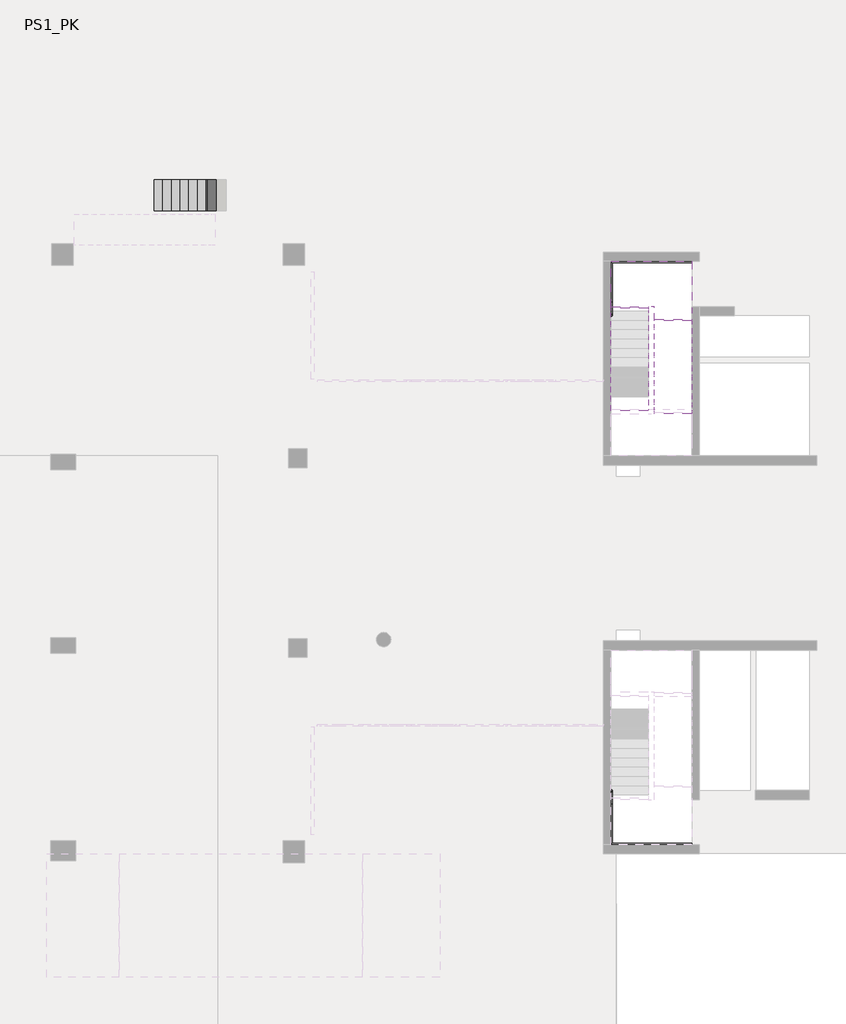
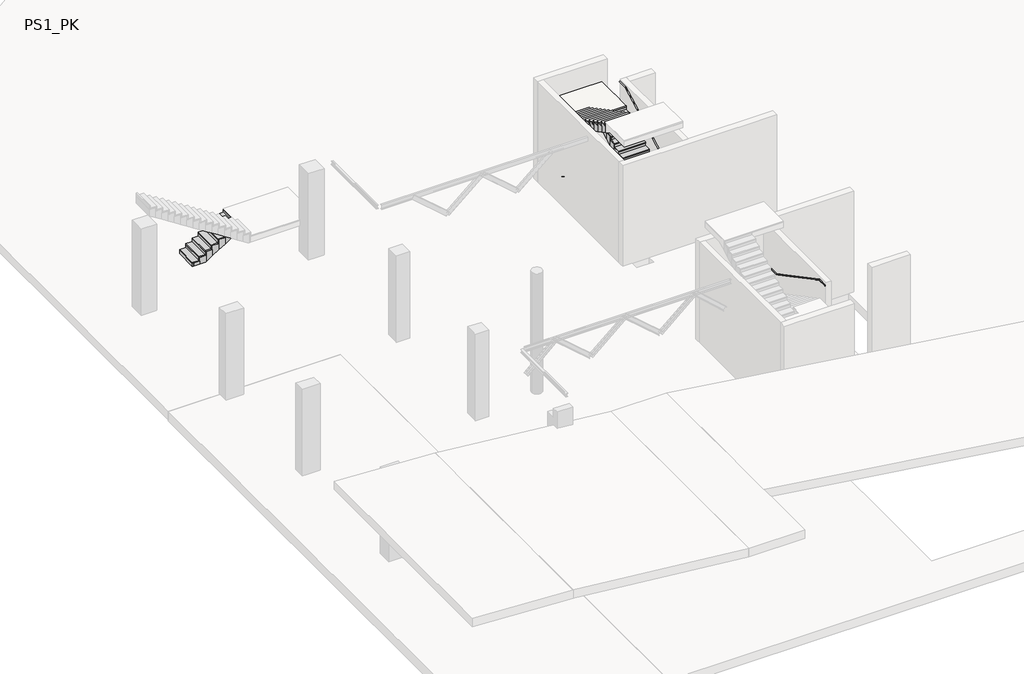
# One storey, part 5 of 5: 3 stair flights, 2 railings, 1 slab.
"""IFC4 building model written with IfcOpenShell, lengths in millimetres."""

from ifc_helpers import new_model, si_unit, frame, origin, place, context, project, spatial, polyline, outline, extrude, faceted_brep, transform, mapped, element, save
from components import railing_900mm_pipe_top_rail_ca5293e4, railing_900mm_pipe_top_rail_e4b130cf

model = new_model("IFC4")

# Units and contexts
model_context = context("Model", 3, world=origin())
ifc_project = project(units=[si_unit("LENGTHUNIT", "METRE", prefix="MILLI")], contexts=[model_context])

# Site, building, storey
site = spatial("IfcSite", under=ifc_project)
building = spatial("IfcBuilding", under=site)
storey = spatial("IfcBuildingStorey", under=building, Name="PS1_PK", Elevation=1850.0)

# Railings
placement = place(None, origin())
railing_900mm_pipe_top_rail_shape = railing_900mm_pipe_top_rail_ca5293e4(model_context)
element("IfcRailing", 1, ObjectType="900mm_Pipe_Top Rail", at=placement, inside=storey, context=model_context, shape_type="MappedRepresentation", body=[
    mapped(railing_900mm_pipe_top_rail_shape, transform((0.0, 0.0, 0.0), x_axis=(1.0, 0.0, 0.0), y_axis=(0.0, 1.0, 0.0), z_axis=(0.0, 0.0, 1.0))),
])
railing_900mm_pipe_top_rail_2_shape = railing_900mm_pipe_top_rail_e4b130cf(model_context)
element("IfcRailing", 2, ObjectType="900mm_Pipe_Top Rail", at=placement, inside=storey, context=model_context, shape_type="MappedRepresentation", body=[
    mapped(railing_900mm_pipe_top_rail_2_shape, transform((0.0, 0.0, 0.0), x_axis=(1.0, 0.0, 0.0), y_axis=(0.0, 1.0, 0.0), z_axis=(0.0, 0.0, 1.0))),
])

# Slab
element("IfcSlab", 3, ObjectType="250mm_Thickness", at=placement, inside=storey, context=model_context, shape_type="SolidModel", body=[
    faceted_brep([(-11990.2146087, 12014.8960687, 5553.7142857), (-10790.2146087, 12014.8960687, 5553.7142857), (-10790.2146087, 12377.0016844, 5553.7142857), (-10790.2146087, 13864.8960687, 5553.7142857), (-13390.3216429, 13864.8960687, 5553.7142857), (-13390.3216429, 12414.8960687, 5553.7142857), (-13390.3216429, 12364.8960687, 5553.7142857), (-12190.3216429, 12364.8960687, 5553.7142857), (-12190.3216429, 12414.8960687, 5553.7142857), (-11990.2146087, 12414.8960687, 5553.7142857), (-11990.2146087, 12377.0016844, 5553.7142857), (-11990.2146087, 12014.8960687, 5394.8571429), (-11990.2146087, 12014.8960687, 5111.9707407), (-10790.2146087, 12014.8960687, 5111.9707407), (-10790.2146087, 12014.8960687, 5394.8571429), (-10790.2146087, 12377.0016844, 5303.7142857), (-10790.2146087, 13864.8960687, 5303.7142857), (-13390.3216429, 13864.8960687, 5303.7142857), (-13390.3216429, 12414.8960687, 5303.7142857), (-13390.3216429, 12364.8960687, 5303.7142857), (-12190.3216429, 12364.8960687, 5303.7142857), (-12190.3216429, 12414.8960687, 5303.7142857), (-11990.2146087, 12414.8960687, 5303.7142857), (-11990.2146087, 12377.0016844, 5303.7142857)], [[[0, 1, 2, 3, 4, 5, 6, 7, 8, 9, 10]], [[1, 0, 11, 12, 13, 14]], [[1, 14, 13, 15, 16, 3, 2]], [[4, 3, 16, 17]], [[5, 4, 17, 18]], [[6, 5, 18, 19]], [[7, 6, 19, 20]], [[8, 7, 20, 21]], [[9, 8, 21, 22]], [[12, 11, 0, 10, 9, 22, 23]], [[15, 23, 22, 21, 20, 19, 18, 17, 16]], [[23, 15, 13, 12]]]),
    extrude(outline(polyline([(-11990.2146087, 11964.8960687), (-11990.2146087, 12414.8960687), (-12190.3216429, 12414.8960687), (-13390.3216429, 12414.8960687), (-13390.3216429, 13864.8960687), (-10790.2146087, 13864.8960687), (-10790.2146087, 11964.8960687), (-11990.2146087, 11964.8960687)])), frame((0.0, 0.0, 5553.7142857), z_axis=(0.0, 0.0, 1.0), x_axis=(1.0, 0.0, 0.0)), (0.0, 0.0, 1.0), 50.0),
])

# Stair flights
element("IfcStairFlight", 4, ObjectType="250mm Depth", at=placement, inside=storey, context=model_context, shape_type="SolidModel", body=[
    faceted_brep([(-27761.0997857, 16500.1538347, 2079.2), (-28041.0997857, 16500.1538347, 2079.2), (-28041.0997857, 15500.1538347, 2079.2), (-27761.0997857, 15500.1538347, 2079.2), (-27761.0997857, 16500.1538347, 1950.0), (-28041.0997857, 16500.1538347, 1950.0), (-28041.0997857, 15500.1538347, 1950.0), (-27761.0997857, 15500.1538347, 1950.0), (-27481.0997857, 16500.1538347, 2258.4), (-27761.0997857, 16500.1538347, 2258.4), (-27761.0997857, 15500.1538347, 2258.4), (-27481.0997857, 15500.1538347, 2258.4), (-27481.0997857, 16500.1538347, 1961.5835584), (-27499.1990957, 16500.1538347, 1950.0), (-27499.1990957, 15500.1538347, 1950.0), (-27481.0997857, 15500.1538347, 1961.5835584), (-27201.0997857, 16500.1538347, 2437.6), (-27481.0997857, 16500.1538347, 2437.6), (-27481.0997857, 15500.1538347, 2437.6), (-27201.0997857, 15500.1538347, 2437.6), (-27201.0997857, 16500.1538347, 2140.7835584), (-27201.0997857, 15500.1538347, 2140.7835584), (-26921.0997857, 16500.1538347, 2616.8), (-27201.0997857, 16500.1538347, 2616.8), (-27201.0997857, 15500.1538347, 2616.8), (-26921.0997857, 15500.1538347, 2616.8), (-26921.0997857, 16500.1538347, 2319.9835584), (-26921.0997857, 15500.1538347, 2319.9835584), (-26641.0997857, 16500.1538347, 2796.0), (-26921.0997857, 16500.1538347, 2796.0), (-26921.0997857, 15500.1538347, 2796.0), (-26641.0997857, 15500.1538347, 2796.0), (-26641.0997857, 16500.1538347, 2499.1835584), (-26641.0997857, 15500.1538347, 2499.1835584), (-26361.0997857, 16500.1538347, 2975.2), (-26641.0997857, 16500.1538347, 2975.2), (-26641.0997857, 15500.1538347, 2975.2), (-26361.0997857, 15500.1538347, 2975.2), (-26361.0997857, 16500.1538347, 2678.3835584), (-26361.0997857, 15500.1538347, 2678.3835584), (-26361.0997857, 16500.1538347, 3154.4), (-26361.0997857, 15500.1538347, 3154.4), (-26131.0997857, 15500.1538347, 3154.4), (-26081.0997857, 15500.1538347, 3154.4), (-26081.0997857, 16500.1538347, 3154.4), (-26131.0997857, 16500.1538347, 3154.4), (-26081.0997857, 16500.1538347, 2857.5835584), (-26131.0997857, 16500.1538347, 2825.5835584), (-26081.0997857, 15500.1538347, 2857.5835584), (-26081.0997857, 15500.1538347, 3083.6)], [[[0, 1, 2, 3]], [[1, 0, 4, 5]], [[2, 1, 5, 6]], [[3, 2, 6, 7]], [[8, 9, 10, 11]], [[4, 0, 9, 8, 12, 13]], [[0, 3, 10, 9]], [[3, 7, 14, 15, 11, 10]], [[16, 17, 18, 19]], [[17, 16, 20, 12, 8]], [[8, 11, 18, 17]], [[19, 18, 11, 15, 21]], [[22, 23, 24, 25]], [[23, 22, 26, 20, 16]], [[16, 19, 24, 23]], [[25, 24, 19, 21, 27]], [[28, 29, 30, 31]], [[29, 28, 32, 26, 22]], [[22, 25, 30, 29]], [[31, 30, 25, 27, 33]], [[34, 35, 36, 37]], [[35, 34, 38, 32, 28]], [[28, 31, 36, 35]], [[37, 36, 31, 33, 39]], [[40, 41, 42, 43, 44, 45]], [[34, 40, 45, 44, 46, 47, 38]], [[34, 37, 41, 40]], [[41, 37, 39, 48, 49, 43, 42]], [[44, 43, 49, 48, 46]], [[5, 4, 13, 14, 7, 6]], [[14, 13, 12, 20, 26, 32, 38, 47, 46, 48, 39, 33, 27, 21, 15]]]),
    extrude(outline(polyline([(-28041.0997857, 15500.1538347), (-28091.0997857, 15500.1538347), (-28091.0997857, 16500.1538347), (-28041.0997857, 16500.1538347), (-28041.0997857, 15500.1538347)])), frame((0.0, 0.0, 1950.0), z_axis=(0.0, 0.0, 1.0), x_axis=(1.0, 0.0, 0.0)), (0.0, 0.0, 1.0), 129.2),
    extrude(outline(polyline([(-27811.0997857, 16500.1538347), (-27811.0997857, 15500.1538347), (-28091.0997857, 15500.1538347), (-28091.0997857, 16500.1538347), (-27811.0997857, 16500.1538347)])), frame((0.0, 0.0, 2079.2), z_axis=(0.0, 0.0, 1.0), x_axis=(1.0, 0.0, 0.0)), (0.0, 0.0, 1.0), 50.0),
    extrude(outline(polyline([(-27761.0997857, 15500.1538347), (-27811.0997857, 15500.1538347), (-27811.0997857, 16500.1538347), (-27761.0997857, 16500.1538347), (-27761.0997857, 15500.1538347)])), frame((0.0, 0.0, 2079.2), z_axis=(0.0, 0.0, 1.0), x_axis=(1.0, 0.0, 0.0)), (0.0, 0.0, 1.0), 179.2),
    extrude(outline(polyline([(-27531.0997857, 16500.1538347), (-27531.0997857, 15500.1538347), (-27811.0997857, 15500.1538347), (-27811.0997857, 16500.1538347), (-27531.0997857, 16500.1538347)])), frame((0.0, 0.0, 2258.4), z_axis=(0.0, 0.0, 1.0), x_axis=(1.0, 0.0, 0.0)), (0.0, 0.0, 1.0), 50.0),
    extrude(outline(polyline([(-27481.0997857, 15500.1538347), (-27531.0997857, 15500.1538347), (-27531.0997857, 16500.1538347), (-27481.0997857, 16500.1538347), (-27481.0997857, 15500.1538347)])), frame((0.0, 0.0, 2258.4), z_axis=(0.0, 0.0, 1.0), x_axis=(1.0, 0.0, 0.0)), (0.0, 0.0, 1.0), 179.2),
    extrude(outline(polyline([(-27251.0997857, 16500.1538347), (-27251.0997857, 15500.1538347), (-27531.0997857, 15500.1538347), (-27531.0997857, 16500.1538347), (-27251.0997857, 16500.1538347)])), frame((0.0, 0.0, 2437.6), z_axis=(0.0, 0.0, 1.0), x_axis=(1.0, 0.0, 0.0)), (0.0, 0.0, 1.0), 50.0),
    extrude(outline(polyline([(-27201.0997857, 15500.1538347), (-27251.0997857, 15500.1538347), (-27251.0997857, 16500.1538347), (-27201.0997857, 16500.1538347), (-27201.0997857, 15500.1538347)])), frame((0.0, 0.0, 2437.6), z_axis=(0.0, 0.0, 1.0), x_axis=(1.0, 0.0, 0.0)), (0.0, 0.0, 1.0), 179.2),
    extrude(outline(polyline([(-26971.0997857, 16500.1538347), (-26971.0997857, 15500.1538347), (-27251.0997857, 15500.1538347), (-27251.0997857, 16500.1538347), (-26971.0997857, 16500.1538347)])), frame((0.0, 0.0, 2616.8), z_axis=(0.0, 0.0, 1.0), x_axis=(1.0, 0.0, 0.0)), (0.0, 0.0, 1.0), 50.0),
    extrude(outline(polyline([(-26921.0997857, 15500.1538347), (-26971.0997857, 15500.1538347), (-26971.0997857, 16500.1538347), (-26921.0997857, 16500.1538347), (-26921.0997857, 15500.1538347)])), frame((0.0, 0.0, 2616.8), z_axis=(0.0, 0.0, 1.0), x_axis=(1.0, 0.0, 0.0)), (0.0, 0.0, 1.0), 179.2),
    extrude(outline(polyline([(-26691.0997857, 16500.1538347), (-26691.0997857, 15500.1538347), (-26971.0997857, 15500.1538347), (-26971.0997857, 16500.1538347), (-26691.0997857, 16500.1538347)])), frame((0.0, 0.0, 2796.0), z_axis=(0.0, 0.0, 1.0), x_axis=(1.0, 0.0, 0.0)), (0.0, 0.0, 1.0), 50.0),
    extrude(outline(polyline([(-26641.0997857, 15500.1538347), (-26691.0997857, 15500.1538347), (-26691.0997857, 16500.1538347), (-26641.0997857, 16500.1538347), (-26641.0997857, 15500.1538347)])), frame((0.0, 0.0, 2796.0), z_axis=(0.0, 0.0, 1.0), x_axis=(1.0, 0.0, 0.0)), (0.0, 0.0, 1.0), 179.2),
    extrude(outline(polyline([(-26411.0997857, 16500.1538347), (-26411.0997857, 15500.1538347), (-26691.0997857, 15500.1538347), (-26691.0997857, 16500.1538347), (-26411.0997857, 16500.1538347)])), frame((0.0, 0.0, 2975.2), z_axis=(0.0, 0.0, 1.0), x_axis=(1.0, 0.0, 0.0)), (0.0, 0.0, 1.0), 50.0),
    extrude(outline(polyline([(-26361.0997857, 15500.1538347), (-26411.0997857, 15500.1538347), (-26411.0997857, 16500.1538347), (-26361.0997857, 16500.1538347), (-26361.0997857, 15500.1538347)])), frame((0.0, 0.0, 2975.2), z_axis=(0.0, 0.0, 1.0), x_axis=(1.0, 0.0, 0.0)), (0.0, 0.0, 1.0), 179.2),
    extrude(outline(polyline([(-26081.0997857, 15500.1538347), (-26131.0997857, 15500.1538347), (-26131.0997857, 16500.1538347), (-26081.0997857, 16500.1538347), (-26081.0997857, 15500.1538347)])), frame((0.0, 0.0, 3154.4), z_axis=(0.0, 0.0, 1.0), x_axis=(1.0, 0.0, 0.0)), (0.0, 0.0, 1.0), 179.2),
    extrude(outline(polyline([(-26131.0997857, 16500.1538347), (-26131.0997857, 15500.1538347), (-26411.0997857, 15500.1538347), (-26411.0997857, 16500.1538347), (-26131.0997857, 16500.1538347)])), frame((0.0, 0.0, 3154.4), z_axis=(0.0, 0.0, 1.0), x_axis=(1.0, 0.0, 0.0)), (0.0, 0.0, 1.0), 50.0),
])
element("IfcStairFlight", 5, ObjectType="250mm Depth", at=placement, inside=storey, context=model_context, shape_type="SolidModel", body=[
    faceted_brep([(-11990.2146087, 9014.8960687, 3965.1428571), (-10790.2146087, 9014.8960687, 3965.1428571), (-10790.2146087, 9077.0016844, 3965.1428571), (-10790.2146087, 9314.8960687, 3965.1428571), (-11990.2146087, 9314.8960687, 3965.1428571), (-11990.2146087, 9077.0016844, 3965.1428571), (-11990.2146087, 9314.8960687, 3682.2564549), (-11990.2146087, 9077.0016844, 3556.2857143), (-11990.2146087, 9014.8960687, 3556.2857143), (-11990.2146087, 9014.8960687, 3806.2857143), (-10790.2146087, 9014.8960687, 3556.2857143), (-10790.2146087, 9014.8960687, 3806.2857143), (-10790.2146087, 9077.0016844, 3556.2857143), (-10790.2146087, 9314.8960687, 3682.2564549), (-11990.2146087, 9614.8960687, 4124.0), (-11990.2146087, 9314.8960687, 4124.0), (-10790.2146087, 9314.8960687, 4124.0), (-10790.2146087, 9614.8960687, 4124.0), (-11990.2146087, 9614.8960687, 3841.1135978), (-10790.2146087, 9614.8960687, 3841.1135978), (-11990.2146087, 9914.8960687, 4282.8571429), (-11990.2146087, 9614.8960687, 4282.8571429), (-10790.2146087, 9614.8960687, 4282.8571429), (-10790.2146087, 9914.8960687, 4282.8571429), (-11990.2146087, 9914.8960687, 3999.9707407), (-10790.2146087, 9914.8960687, 3999.9707407), (-11990.2146087, 10214.8960687, 4441.7142857), (-11990.2146087, 9914.8960687, 4441.7142857), (-10790.2146087, 9914.8960687, 4441.7142857), (-10790.2146087, 10214.8960687, 4441.7142857), (-11990.2146087, 10214.8960687, 4158.8278835), (-10790.2146087, 10214.8960687, 4158.8278835), (-11990.2146087, 10514.8960687, 4600.5714286), (-11990.2146087, 10214.8960687, 4600.5714286), (-10790.2146087, 10214.8960687, 4600.5714286), (-10790.2146087, 10514.8960687, 4600.5714286), (-11990.2146087, 10514.8960687, 4317.6850264), (-10790.2146087, 10514.8960687, 4317.6850264), (-11990.2146087, 10814.8960687, 4759.4285714), (-11990.2146087, 10514.8960687, 4759.4285714), (-10790.2146087, 10514.8960687, 4759.4285714), (-10790.2146087, 10814.8960687, 4759.4285714), (-11990.2146087, 10814.8960687, 4476.5421692), (-10790.2146087, 10814.8960687, 4476.5421692), (-11990.2146087, 11114.8960687, 4918.2857143), (-11990.2146087, 10814.8960687, 4918.2857143), (-10790.2146087, 10814.8960687, 4918.2857143), (-10790.2146087, 11114.8960687, 4918.2857143), (-11990.2146087, 11114.8960687, 4635.3993121), (-10790.2146087, 11114.8960687, 4635.3993121), (-11990.2146087, 11414.8960687, 5077.1428571), (-11990.2146087, 11114.8960687, 5077.1428571), (-10790.2146087, 11114.8960687, 5077.1428571), (-10790.2146087, 11414.8960687, 5077.1428571), (-11990.2146087, 11414.8960687, 4794.2564549), (-10790.2146087, 11414.8960687, 4794.2564549), (-11990.2146087, 11714.8960687, 5236.0), (-11990.2146087, 11414.8960687, 5236.0), (-10790.2146087, 11414.8960687, 5236.0), (-10790.2146087, 11714.8960687, 5236.0), (-11990.2146087, 11714.8960687, 4953.1135978), (-10790.2146087, 11714.8960687, 4953.1135978), (-11990.2146087, 11714.8960687, 5394.8571429), (-10790.2146087, 11714.8960687, 5394.8571429), (-10790.2146087, 11964.8960687, 5394.8571429), (-10790.2146087, 12014.8960687, 5394.8571429), (-11990.2146087, 12014.8960687, 5394.8571429), (-11990.2146087, 11964.8960687, 5394.8571429), (-11990.2146087, 12014.8960687, 5111.9707407), (-11990.2146087, 11964.8960687, 5085.4945502), (-10790.2146087, 11964.8960687, 5085.4945502), (-10790.2146087, 12014.8960687, 5111.9707407)], [[[0, 1, 2, 3, 4, 5]], [[4, 6, 7, 8, 9, 0, 5]], [[1, 0, 9, 8, 10, 11]], [[1, 11, 10, 12, 13, 3, 2]], [[14, 15, 16, 17]], [[15, 14, 18, 6, 4]], [[16, 15, 4, 3]], [[17, 16, 3, 13, 19]], [[20, 21, 22, 23]], [[21, 20, 24, 18, 14]], [[22, 21, 14, 17]], [[23, 22, 17, 19, 25]], [[26, 27, 28, 29]], [[27, 26, 30, 24, 20]], [[28, 27, 20, 23]], [[29, 28, 23, 25, 31]], [[32, 33, 34, 35]], [[33, 32, 36, 30, 26]], [[34, 33, 26, 29]], [[35, 34, 29, 31, 37]], [[38, 39, 40, 41]], [[39, 38, 42, 36, 32]], [[40, 39, 32, 35]], [[41, 40, 35, 37, 43]], [[44, 45, 46, 47]], [[45, 44, 48, 42, 38]], [[46, 45, 38, 41]], [[47, 46, 41, 43, 49]], [[50, 51, 52, 53]], [[51, 50, 54, 48, 44]], [[52, 51, 44, 47]], [[53, 52, 47, 49, 55]], [[56, 57, 58, 59]], [[57, 56, 60, 54, 50]], [[58, 57, 50, 53]], [[59, 58, 53, 55, 61]], [[62, 63, 64, 65, 66, 67]], [[56, 62, 67, 66, 68, 69, 60]], [[63, 62, 56, 59]], [[63, 59, 61, 70, 71, 65, 64]], [[66, 65, 71, 68]], [[12, 7, 6, 18, 24, 30, 36, 42, 48, 54, 60, 69, 68, 71, 70, 61, 55, 49, 43, 37, 31, 25, 19, 13]], [[7, 12, 10, 8]]]),
    extrude(outline(polyline([(-10790.2146087, 9014.8960687), (-10790.2146087, 8964.8960687), (-11990.2146087, 8964.8960687), (-11990.2146087, 9014.8960687), (-10790.2146087, 9014.8960687)])), frame((0.0, 0.0, 3806.2857143), z_axis=(0.0, 0.0, 1.0), x_axis=(1.0, 0.0, 0.0)), (0.0, 0.0, 1.0), 158.8571429),
    extrude(outline(polyline([(-11990.2146087, 9264.8960687), (-10790.2146087, 9264.8960687), (-10790.2146087, 8964.8960687), (-11990.2146087, 8964.8960687), (-11990.2146087, 9264.8960687)])), frame((0.0, 0.0, 3965.1428571), z_axis=(0.0, 0.0, 1.0), x_axis=(1.0, 0.0, 0.0)), (0.0, 0.0, 1.0), 50.0),
    extrude(outline(polyline([(-10790.2146087, 9314.8960687), (-10790.2146087, 9264.8960687), (-11990.2146087, 9264.8960687), (-11990.2146087, 9314.8960687), (-10790.2146087, 9314.8960687)])), frame((0.0, 0.0, 3965.1428571), z_axis=(0.0, 0.0, 1.0), x_axis=(1.0, 0.0, 0.0)), (0.0, 0.0, 1.0), 158.8571429),
    extrude(outline(polyline([(-11990.2146087, 9564.8960687), (-10790.2146087, 9564.8960687), (-10790.2146087, 9264.8960687), (-11990.2146087, 9264.8960687), (-11990.2146087, 9564.8960687)])), frame((0.0, 0.0, 4124.0), z_axis=(0.0, 0.0, 1.0), x_axis=(1.0, 0.0, 0.0)), (0.0, 0.0, 1.0), 50.0),
    extrude(outline(polyline([(-10790.2146087, 9614.8960687), (-10790.2146087, 9564.8960687), (-11990.2146087, 9564.8960687), (-11990.2146087, 9614.8960687), (-10790.2146087, 9614.8960687)])), frame((0.0, 0.0, 4124.0), z_axis=(0.0, 0.0, 1.0), x_axis=(1.0, 0.0, 0.0)), (0.0, 0.0, 1.0), 158.8571429),
    extrude(outline(polyline([(-11990.2146087, 9864.8960687), (-10790.2146087, 9864.8960687), (-10790.2146087, 9564.8960687), (-11990.2146087, 9564.8960687), (-11990.2146087, 9864.8960687)])), frame((0.0, 0.0, 4282.8571429), z_axis=(0.0, 0.0, 1.0), x_axis=(1.0, 0.0, 0.0)), (0.0, 0.0, 1.0), 50.0),
    extrude(outline(polyline([(-10790.2146087, 9914.8960687), (-10790.2146087, 9864.8960687), (-11990.2146087, 9864.8960687), (-11990.2146087, 9914.8960687), (-10790.2146087, 9914.8960687)])), frame((0.0, 0.0, 4282.8571429), z_axis=(0.0, 0.0, 1.0), x_axis=(1.0, 0.0, 0.0)), (0.0, 0.0, 1.0), 158.8571429),
    extrude(outline(polyline([(-11990.2146087, 10164.8960687), (-10790.2146087, 10164.8960687), (-10790.2146087, 9864.8960687), (-11990.2146087, 9864.8960687), (-11990.2146087, 10164.8960687)])), frame((0.0, 0.0, 4441.7142857), z_axis=(0.0, 0.0, 1.0), x_axis=(1.0, 0.0, 0.0)), (0.0, 0.0, 1.0), 50.0),
    extrude(outline(polyline([(-10790.2146087, 10214.8960687), (-10790.2146087, 10164.8960687), (-11990.2146087, 10164.8960687), (-11990.2146087, 10214.8960687), (-10790.2146087, 10214.8960687)])), frame((0.0, 0.0, 4441.7142857), z_axis=(0.0, 0.0, 1.0), x_axis=(1.0, 0.0, 0.0)), (0.0, 0.0, 1.0), 158.8571429),
    extrude(outline(polyline([(-11990.2146087, 10464.8960687), (-10790.2146087, 10464.8960687), (-10790.2146087, 10164.8960687), (-11990.2146087, 10164.8960687), (-11990.2146087, 10464.8960687)])), frame((0.0, 0.0, 4600.5714286), z_axis=(0.0, 0.0, 1.0), x_axis=(1.0, 0.0, 0.0)), (0.0, 0.0, 1.0), 50.0),
    extrude(outline(polyline([(-10790.2146087, 10514.8960687), (-10790.2146087, 10464.8960687), (-11990.2146087, 10464.8960687), (-11990.2146087, 10514.8960687), (-10790.2146087, 10514.8960687)])), frame((0.0, 0.0, 4600.5714286), z_axis=(0.0, 0.0, 1.0), x_axis=(1.0, 0.0, 0.0)), (0.0, 0.0, 1.0), 158.8571429),
    extrude(outline(polyline([(-11990.2146087, 10764.8960687), (-10790.2146087, 10764.8960687), (-10790.2146087, 10464.8960687), (-11990.2146087, 10464.8960687), (-11990.2146087, 10764.8960687)])), frame((0.0, 0.0, 4759.4285714), z_axis=(0.0, 0.0, 1.0), x_axis=(1.0, 0.0, 0.0)), (0.0, 0.0, 1.0), 50.0),
    extrude(outline(polyline([(-10790.2146087, 10814.8960687), (-10790.2146087, 10764.8960687), (-11990.2146087, 10764.8960687), (-11990.2146087, 10814.8960687), (-10790.2146087, 10814.8960687)])), frame((0.0, 0.0, 4759.4285714), z_axis=(0.0, 0.0, 1.0), x_axis=(1.0, 0.0, 0.0)), (0.0, 0.0, 1.0), 158.8571429),
    extrude(outline(polyline([(-11990.2146087, 11064.8960687), (-10790.2146087, 11064.8960687), (-10790.2146087, 10764.8960687), (-11990.2146087, 10764.8960687), (-11990.2146087, 11064.8960687)])), frame((0.0, 0.0, 4918.2857143), z_axis=(0.0, 0.0, 1.0), x_axis=(1.0, 0.0, 0.0)), (0.0, 0.0, 1.0), 50.0),
    extrude(outline(polyline([(-10790.2146087, 11114.8960687), (-10790.2146087, 11064.8960687), (-11990.2146087, 11064.8960687), (-11990.2146087, 11114.8960687), (-10790.2146087, 11114.8960687)])), frame((0.0, 0.0, 4918.2857143), z_axis=(0.0, 0.0, 1.0), x_axis=(1.0, 0.0, 0.0)), (0.0, 0.0, 1.0), 158.8571429),
    extrude(outline(polyline([(-11990.2146087, 11364.8960687), (-10790.2146087, 11364.8960687), (-10790.2146087, 11064.8960687), (-11990.2146087, 11064.8960687), (-11990.2146087, 11364.8960687)])), frame((0.0, 0.0, 5077.1428571), z_axis=(0.0, 0.0, 1.0), x_axis=(1.0, 0.0, 0.0)), (0.0, 0.0, 1.0), 50.0),
    extrude(outline(polyline([(-10790.2146087, 11414.8960687), (-10790.2146087, 11364.8960687), (-11990.2146087, 11364.8960687), (-11990.2146087, 11414.8960687), (-10790.2146087, 11414.8960687)])), frame((0.0, 0.0, 5077.1428571), z_axis=(0.0, 0.0, 1.0), x_axis=(1.0, 0.0, 0.0)), (0.0, 0.0, 1.0), 158.8571429),
    extrude(outline(polyline([(-11990.2146087, 11664.8960687), (-10790.2146087, 11664.8960687), (-10790.2146087, 11364.8960687), (-11990.2146087, 11364.8960687), (-11990.2146087, 11664.8960687)])), frame((0.0, 0.0, 5236.0), z_axis=(0.0, 0.0, 1.0), x_axis=(1.0, 0.0, 0.0)), (0.0, 0.0, 1.0), 50.0),
    extrude(outline(polyline([(-10790.2146087, 11714.8960687), (-10790.2146087, 11664.8960687), (-11990.2146087, 11664.8960687), (-11990.2146087, 11714.8960687), (-10790.2146087, 11714.8960687)])), frame((0.0, 0.0, 5236.0), z_axis=(0.0, 0.0, 1.0), x_axis=(1.0, 0.0, 0.0)), (0.0, 0.0, 1.0), 158.8571429),
    extrude(outline(polyline([(-10790.2146087, 12014.8960687), (-10790.2146087, 11964.8960687), (-11990.2146087, 11964.8960687), (-11990.2146087, 12014.8960687), (-10790.2146087, 12014.8960687)])), frame((0.0, 0.0, 5394.8571429), z_axis=(0.0, 0.0, 1.0), x_axis=(1.0, 0.0, 0.0)), (0.0, 0.0, 1.0), 158.8571429),
    extrude(outline(polyline([(-11990.2146087, 11964.8960687), (-10790.2146087, 11964.8960687), (-10790.2146087, 11664.8960687), (-11990.2146087, 11664.8960687), (-11990.2146087, 11964.8960687)])), frame((0.0, 0.0, 5394.8571429), z_axis=(0.0, 0.0, 1.0), x_axis=(1.0, 0.0, 0.0)), (0.0, 0.0, 1.0), 50.0),
])
element("IfcStairFlight", 6, ObjectType="250mm Depth", at=placement, inside=storey, context=model_context, shape_type="SolidModel", body=[
    faceted_brep([(-12190.3216429, 12364.8960687, 5712.5714286), (-13390.3216429, 12364.8960687, 5712.5714286), (-13390.3216429, 12302.7904531, 5712.5714286), (-13390.3216429, 12064.8960687, 5712.5714286), (-12190.3216429, 12064.8960687, 5712.5714286), (-12190.3216429, 12302.7904531, 5712.5714286), (-12190.3216429, 12064.8960687, 5429.6850264), (-12190.3216429, 12302.7904531, 5303.7142857), (-12190.3216429, 12364.8960687, 5303.7142857), (-12190.3216429, 12364.8960687, 5553.7142857), (-13390.3216429, 12364.8960687, 5303.7142857), (-13390.3216429, 12364.8960687, 5553.7142857), (-13390.3216429, 12302.7904531, 5303.7142857), (-13390.3216429, 12064.8960687, 5429.6850264), (-12190.3216429, 11764.8960687, 5871.4285714), (-12190.3216429, 12064.8960687, 5871.4285714), (-13390.3216429, 12064.8960687, 5871.4285714), (-13390.3216429, 11764.8960687, 5871.4285714), (-12190.3216429, 11764.8960687, 5588.5421692), (-13390.3216429, 11764.8960687, 5588.5421692), (-12190.3216429, 11464.8960687, 6030.2857143), (-12190.3216429, 11764.8960687, 6030.2857143), (-13390.3216429, 11764.8960687, 6030.2857143), (-13390.3216429, 11464.8960687, 6030.2857143), (-12190.3216429, 11464.8960687, 5747.3993121), (-13390.3216429, 11464.8960687, 5747.3993121), (-12190.3216429, 11164.8960687, 6189.1428571), (-12190.3216429, 11464.8960687, 6189.1428571), (-13390.3216429, 11464.8960687, 6189.1428571), (-13390.3216429, 11164.8960687, 6189.1428571), (-12190.3216429, 11164.8960687, 5906.2564549), (-13390.3216429, 11164.8960687, 5906.2564549), (-12190.3216429, 10864.8960687, 6348.0), (-12190.3216429, 11164.8960687, 6348.0), (-13390.3216429, 11164.8960687, 6348.0), (-13390.3216429, 10864.8960687, 6348.0), (-12190.3216429, 10864.8960687, 6065.1135978), (-13390.3216429, 10864.8960687, 6065.1135978), (-12190.3216429, 10564.8960687, 6506.8571429), (-12190.3216429, 10864.8960687, 6506.8571429), (-13390.3216429, 10864.8960687, 6506.8571429), (-13390.3216429, 10564.8960687, 6506.8571429), (-12190.3216429, 10564.8960687, 6223.9707407), (-13390.3216429, 10564.8960687, 6223.9707407), (-12190.3216429, 10264.8960687, 6665.7142857), (-12190.3216429, 10564.8960687, 6665.7142857), (-13390.3216429, 10564.8960687, 6665.7142857), (-13390.3216429, 10264.8960687, 6665.7142857), (-12190.3216429, 10264.8960687, 6382.8278835), (-13390.3216429, 10264.8960687, 6382.8278835), (-12190.3216429, 9964.8960687, 6824.5714286), (-12190.3216429, 10264.8960687, 6824.5714286), (-13390.3216429, 10264.8960687, 6824.5714286), (-13390.3216429, 9964.8960687, 6824.5714286), (-12190.3216429, 9964.8960687, 6541.6850264), (-13390.3216429, 9964.8960687, 6541.6850264), (-12190.3216429, 9664.8960687, 6983.4285714), (-12190.3216429, 9964.8960687, 6983.4285714), (-13390.3216429, 9964.8960687, 6983.4285714), (-13390.3216429, 9664.8960687, 6983.4285714), (-12190.3216429, 9664.8960687, 6700.5421692), (-13390.3216429, 9664.8960687, 6700.5421692), (-12190.3216429, 9364.8960687, 7142.2857143), (-12190.3216429, 9664.8960687, 7142.2857143), (-13390.3216429, 9664.8960687, 7142.2857143), (-13390.3216429, 9364.8960687, 7142.2857143), (-12190.3216429, 9364.8960687, 6859.3993121), (-13390.3216429, 9364.8960687, 6859.3993121), (-12190.3216429, 9364.8960687, 7301.1428571), (-13390.3216429, 9364.8960687, 7301.1428571), (-13390.3216429, 9114.8960687, 7301.1428571), (-13390.3216429, 9064.8960687, 7301.1428571), (-12190.3216429, 9064.8960687, 7301.1428571), (-12190.3216429, 9114.8960687, 7301.1428571), (-12190.3216429, 9064.8960687, 7210.0), (-12190.3216429, 9064.8960687, 7018.2564549), (-13390.3216429, 9114.8960687, 6991.7802645), (-13390.3216429, 9064.8960687, 7018.2564549)], [[[0, 1, 2, 3, 4, 5]], [[4, 6, 7, 8, 9, 0, 5]], [[1, 0, 9, 8, 10, 11]], [[1, 11, 10, 12, 13, 3, 2]], [[14, 15, 16, 17]], [[15, 14, 18, 6, 4]], [[16, 15, 4, 3]], [[17, 16, 3, 13, 19]], [[20, 21, 22, 23]], [[21, 20, 24, 18, 14]], [[22, 21, 14, 17]], [[23, 22, 17, 19, 25]], [[26, 27, 28, 29]], [[27, 26, 30, 24, 20]], [[28, 27, 20, 23]], [[29, 28, 23, 25, 31]], [[32, 33, 34, 35]], [[33, 32, 36, 30, 26]], [[34, 33, 26, 29]], [[35, 34, 29, 31, 37]], [[38, 39, 40, 41]], [[39, 38, 42, 36, 32]], [[40, 39, 32, 35]], [[41, 40, 35, 37, 43]], [[44, 45, 46, 47]], [[45, 44, 48, 42, 38]], [[46, 45, 38, 41]], [[47, 46, 41, 43, 49]], [[50, 51, 52, 53]], [[51, 50, 54, 48, 44]], [[52, 51, 44, 47]], [[53, 52, 47, 49, 55]], [[56, 57, 58, 59]], [[57, 56, 60, 54, 50]], [[58, 57, 50, 53]], [[59, 58, 53, 55, 61]], [[62, 63, 64, 65]], [[63, 62, 66, 60, 56]], [[64, 63, 56, 59]], [[65, 64, 59, 61, 67]], [[68, 69, 70, 71, 72, 73]], [[62, 68, 73, 72, 74, 75, 66]], [[69, 68, 62, 65]], [[69, 65, 67, 76, 77, 71, 70]], [[72, 71, 77, 75, 74]], [[12, 7, 6, 18, 24, 30, 36, 42, 48, 54, 60, 66, 75, 77, 76, 67, 61, 55, 49, 43, 37, 31, 25, 19, 13]], [[7, 12, 10, 8]]]),
    extrude(outline(polyline([(-13390.3216429, 12364.8960687), (-13390.3216429, 12414.8960687), (-12190.3216429, 12414.8960687), (-12190.3216429, 12364.8960687), (-13390.3216429, 12364.8960687)])), frame((0.0, 0.0, 5553.7142857), z_axis=(0.0, 0.0, 1.0), x_axis=(1.0, 0.0, 0.0)), (0.0, 0.0, 1.0), 158.8571429),
    extrude(outline(polyline([(-12190.3216429, 12114.8960687), (-13390.3216429, 12114.8960687), (-13390.3216429, 12414.8960687), (-12190.3216429, 12414.8960687), (-12190.3216429, 12114.8960687)])), frame((0.0, 0.0, 5712.5714286), z_axis=(0.0, 0.0, 1.0), x_axis=(1.0, 0.0, 0.0)), (0.0, 0.0, 1.0), 50.0),
    extrude(outline(polyline([(-13390.3216429, 12064.8960687), (-13390.3216429, 12114.8960687), (-12190.3216429, 12114.8960687), (-12190.3216429, 12064.8960687), (-13390.3216429, 12064.8960687)])), frame((0.0, 0.0, 5712.5714286), z_axis=(0.0, 0.0, 1.0), x_axis=(1.0, 0.0, 0.0)), (0.0, 0.0, 1.0), 158.8571429),
    extrude(outline(polyline([(-12190.3216429, 11814.8960687), (-13390.3216429, 11814.8960687), (-13390.3216429, 12114.8960687), (-12190.3216429, 12114.8960687), (-12190.3216429, 11814.8960687)])), frame((0.0, 0.0, 5871.4285714), z_axis=(0.0, 0.0, 1.0), x_axis=(1.0, 0.0, 0.0)), (0.0, 0.0, 1.0), 50.0),
    extrude(outline(polyline([(-13390.3216429, 11764.8960687), (-13390.3216429, 11814.8960687), (-12190.3216429, 11814.8960687), (-12190.3216429, 11764.8960687), (-13390.3216429, 11764.8960687)])), frame((0.0, 0.0, 5871.4285714), z_axis=(0.0, 0.0, 1.0), x_axis=(1.0, 0.0, 0.0)), (0.0, 0.0, 1.0), 158.8571429),
    extrude(outline(polyline([(-12190.3216429, 11514.8960687), (-13390.3216429, 11514.8960687), (-13390.3216429, 11814.8960687), (-12190.3216429, 11814.8960687), (-12190.3216429, 11514.8960687)])), frame((0.0, 0.0, 6030.2857143), z_axis=(0.0, 0.0, 1.0), x_axis=(1.0, 0.0, 0.0)), (0.0, 0.0, 1.0), 50.0),
    extrude(outline(polyline([(-13390.3216429, 11464.8960687), (-13390.3216429, 11514.8960687), (-12190.3216429, 11514.8960687), (-12190.3216429, 11464.8960687), (-13390.3216429, 11464.8960687)])), frame((0.0, 0.0, 6030.2857143), z_axis=(0.0, 0.0, 1.0), x_axis=(1.0, 0.0, 0.0)), (0.0, 0.0, 1.0), 158.8571429),
    extrude(outline(polyline([(-12190.3216429, 11214.8960687), (-13390.3216429, 11214.8960687), (-13390.3216429, 11514.8960687), (-12190.3216429, 11514.8960687), (-12190.3216429, 11214.8960687)])), frame((0.0, 0.0, 6189.1428571), z_axis=(0.0, 0.0, 1.0), x_axis=(1.0, 0.0, 0.0)), (0.0, 0.0, 1.0), 50.0),
    extrude(outline(polyline([(-13390.3216429, 11164.8960687), (-13390.3216429, 11214.8960687), (-12190.3216429, 11214.8960687), (-12190.3216429, 11164.8960687), (-13390.3216429, 11164.8960687)])), frame((0.0, 0.0, 6189.1428571), z_axis=(0.0, 0.0, 1.0), x_axis=(1.0, 0.0, 0.0)), (0.0, 0.0, 1.0), 158.8571429),
    extrude(outline(polyline([(-12190.3216429, 10914.8960687), (-13390.3216429, 10914.8960687), (-13390.3216429, 11214.8960687), (-12190.3216429, 11214.8960687), (-12190.3216429, 10914.8960687)])), frame((0.0, 0.0, 6348.0), z_axis=(0.0, 0.0, 1.0), x_axis=(1.0, 0.0, 0.0)), (0.0, 0.0, 1.0), 50.0),
    extrude(outline(polyline([(-13390.3216429, 10864.8960687), (-13390.3216429, 10914.8960687), (-12190.3216429, 10914.8960687), (-12190.3216429, 10864.8960687), (-13390.3216429, 10864.8960687)])), frame((0.0, 0.0, 6348.0), z_axis=(0.0, 0.0, 1.0), x_axis=(1.0, 0.0, 0.0)), (0.0, 0.0, 1.0), 158.8571429),
    extrude(outline(polyline([(-12190.3216429, 10614.8960687), (-13390.3216429, 10614.8960687), (-13390.3216429, 10914.8960687), (-12190.3216429, 10914.8960687), (-12190.3216429, 10614.8960687)])), frame((0.0, 0.0, 6506.8571429), z_axis=(0.0, 0.0, 1.0), x_axis=(1.0, 0.0, 0.0)), (0.0, 0.0, 1.0), 50.0),
    extrude(outline(polyline([(-13390.3216429, 10564.8960687), (-13390.3216429, 10614.8960687), (-12190.3216429, 10614.8960687), (-12190.3216429, 10564.8960687), (-13390.3216429, 10564.8960687)])), frame((0.0, 0.0, 6506.8571429), z_axis=(0.0, 0.0, 1.0), x_axis=(1.0, 0.0, 0.0)), (0.0, 0.0, 1.0), 158.8571429),
    extrude(outline(polyline([(-12190.3216429, 10314.8960687), (-13390.3216429, 10314.8960687), (-13390.3216429, 10614.8960687), (-12190.3216429, 10614.8960687), (-12190.3216429, 10314.8960687)])), frame((0.0, 0.0, 6665.7142857), z_axis=(0.0, 0.0, 1.0), x_axis=(1.0, 0.0, 0.0)), (0.0, 0.0, 1.0), 50.0),
    extrude(outline(polyline([(-13390.3216429, 10264.8960687), (-13390.3216429, 10314.8960687), (-12190.3216429, 10314.8960687), (-12190.3216429, 10264.8960687), (-13390.3216429, 10264.8960687)])), frame((0.0, 0.0, 6665.7142857), z_axis=(0.0, 0.0, 1.0), x_axis=(1.0, 0.0, 0.0)), (0.0, 0.0, 1.0), 158.8571429),
    extrude(outline(polyline([(-12190.3216429, 10014.8960687), (-13390.3216429, 10014.8960687), (-13390.3216429, 10314.8960687), (-12190.3216429, 10314.8960687), (-12190.3216429, 10014.8960687)])), frame((0.0, 0.0, 6824.5714286), z_axis=(0.0, 0.0, 1.0), x_axis=(1.0, 0.0, 0.0)), (0.0, 0.0, 1.0), 50.0),
    extrude(outline(polyline([(-13390.3216429, 9964.8960687), (-13390.3216429, 10014.8960687), (-12190.3216429, 10014.8960687), (-12190.3216429, 9964.8960687), (-13390.3216429, 9964.8960687)])), frame((0.0, 0.0, 6824.5714286), z_axis=(0.0, 0.0, 1.0), x_axis=(1.0, 0.0, 0.0)), (0.0, 0.0, 1.0), 158.8571429),
    extrude(outline(polyline([(-12190.3216429, 9714.8960687), (-13390.3216429, 9714.8960687), (-13390.3216429, 10014.8960687), (-12190.3216429, 10014.8960687), (-12190.3216429, 9714.8960687)])), frame((0.0, 0.0, 6983.4285714), z_axis=(0.0, 0.0, 1.0), x_axis=(1.0, 0.0, 0.0)), (0.0, 0.0, 1.0), 50.0),
    extrude(outline(polyline([(-13390.3216429, 9664.8960687), (-13390.3216429, 9714.8960687), (-12190.3216429, 9714.8960687), (-12190.3216429, 9664.8960687), (-13390.3216429, 9664.8960687)])), frame((0.0, 0.0, 6983.4285714), z_axis=(0.0, 0.0, 1.0), x_axis=(1.0, 0.0, 0.0)), (0.0, 0.0, 1.0), 158.8571429),
    extrude(outline(polyline([(-12190.3216429, 9414.8960687), (-13390.3216429, 9414.8960687), (-13390.3216429, 9714.8960687), (-12190.3216429, 9714.8960687), (-12190.3216429, 9414.8960687)])), frame((0.0, 0.0, 7142.2857143), z_axis=(0.0, 0.0, 1.0), x_axis=(1.0, 0.0, 0.0)), (0.0, 0.0, 1.0), 50.0),
    extrude(outline(polyline([(-13390.3216429, 9364.8960687), (-13390.3216429, 9414.8960687), (-12190.3216429, 9414.8960687), (-12190.3216429, 9364.8960687), (-13390.3216429, 9364.8960687)])), frame((0.0, 0.0, 7142.2857143), z_axis=(0.0, 0.0, 1.0), x_axis=(1.0, 0.0, 0.0)), (0.0, 0.0, 1.0), 158.8571429),
    extrude(outline(polyline([(-13390.3216429, 9064.8960687), (-13390.3216429, 9114.8960687), (-12190.3216429, 9114.8960687), (-12190.3216429, 9064.8960687), (-13390.3216429, 9064.8960687)])), frame((0.0, 0.0, 7301.1428571), z_axis=(0.0, 0.0, 1.0), x_axis=(1.0, 0.0, 0.0)), (0.0, 0.0, 1.0), 158.8571429),
    extrude(outline(polyline([(-12190.3216429, 9114.8960687), (-13390.3216429, 9114.8960687), (-13390.3216429, 9414.8960687), (-12190.3216429, 9414.8960687), (-12190.3216429, 9114.8960687)])), frame((0.0, 0.0, 7301.1428571), z_axis=(0.0, 0.0, 1.0), x_axis=(1.0, 0.0, 0.0)), (0.0, 0.0, 1.0), 50.0),
])

save(model, "model.ifc")
